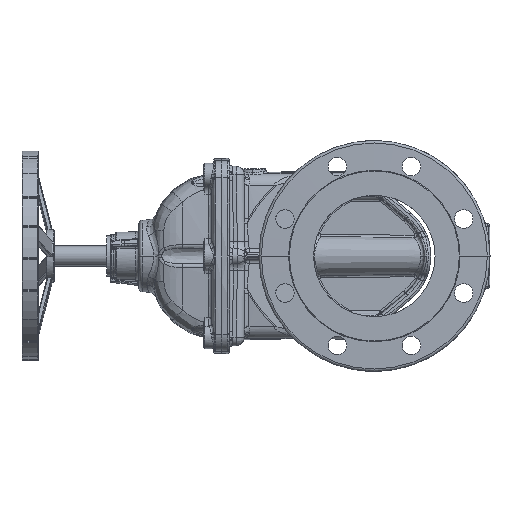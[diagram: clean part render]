
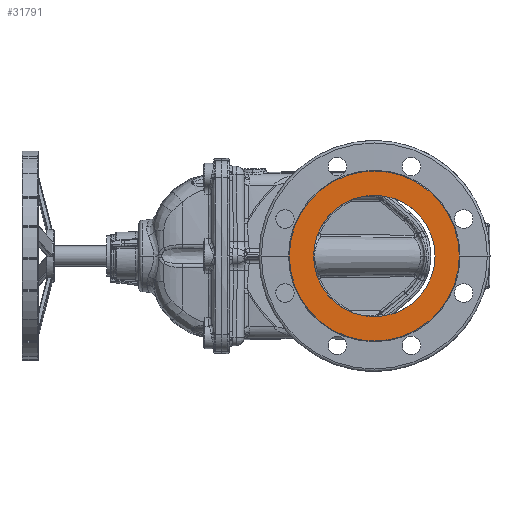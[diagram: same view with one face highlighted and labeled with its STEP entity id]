
A CAD part, left-side view. The second image highlights one B-rep face of the part: STEP entity #31791.
In plain terms, the highlighted planar face has unit normal (-1, 0, 0).
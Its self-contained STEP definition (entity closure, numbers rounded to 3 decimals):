
#1139 = DIRECTION ( 'NONE',  ( -1., 0., 0. ) ) ;
#4307 = VERTEX_POINT ( 'NONE', #75586 ) ;
#5572 = CARTESIAN_POINT ( 'NONE',  ( -105., 0., 0. ) ) ;
#8961 = FACE_BOUND ( 'NONE', #35717, .T. ) ;
#9737 = ORIENTED_EDGE ( 'NONE', *, *, #72267, .T. ) ;
#11351 = DIRECTION ( 'NONE',  ( 1., 0., 0. ) ) ;
#11870 = DIRECTION ( 'NONE',  ( 0., 0., 1. ) ) ;
#14498 = CIRCLE ( 'NONE', #75921, 105.547 ) ;
#25775 = DIRECTION ( 'NONE',  ( 0., 0., 1. ) ) ;
#25816 = CARTESIAN_POINT ( 'NONE',  ( -105., 0., 0. ) ) ;
#27002 = CARTESIAN_POINT ( 'NONE',  ( -105., -75.375, 0. ) ) ;
#29228 = VERTEX_POINT ( 'NONE', #27002 ) ;
#31380 = ORIENTED_EDGE ( 'NONE', *, *, #84639, .F. ) ;
#31791 = ADVANCED_FACE ( 'NONE', ( #80176, #8961 ), #40696, .T. ) ;
#34246 = VERTEX_POINT ( 'NONE', #90348 ) ;
#35717 = EDGE_LOOP ( 'NONE', ( #9737, #38408 ) ) ;
#37448 = VERTEX_POINT ( 'NONE', #60862 ) ;
#38346 = EDGE_CURVE ( 'NONE', #4307, #37448, #14498, .T. ) ;
#38408 = ORIENTED_EDGE ( 'NONE', *, *, #55453, .T. ) ;
#40377 = DIRECTION ( 'NONE',  ( 1., 0., 0. ) ) ;
#40696 = PLANE ( 'NONE',  #80825 ) ;
#41224 = CARTESIAN_POINT ( 'NONE',  ( -105., -206.758, -250. ) ) ;
#42667 = EDGE_LOOP ( 'NONE', ( #31380, #85959 ) ) ;
#42917 = DIRECTION ( 'NONE',  ( 1., 0., 0. ) ) ;
#47361 = AXIS2_PLACEMENT_3D ( 'NONE', #80857, #42917, #25775 ) ;
#55453 = EDGE_CURVE ( 'NONE', #34246, #29228, #64809, .T. ) ;
#56726 = AXIS2_PLACEMENT_3D ( 'NONE', #25816, #40377, #64263 ) ;
#56790 = DIRECTION ( 'NONE',  ( 0., 0., 1. ) ) ;
#60862 = CARTESIAN_POINT ( 'NONE',  ( -105., 105.548, 0. ) ) ;
#64263 = DIRECTION ( 'NONE',  ( 0., 0., 1. ) ) ;
#64581 = DIRECTION ( 'NONE',  ( 0., 0., 1. ) ) ;
#64809 = CIRCLE ( 'NONE', #56726, 75.375 ) ;
#69004 = CIRCLE ( 'NONE', #98867, 75.375 ) ;
#72267 = EDGE_CURVE ( 'NONE', #29228, #34246, #69004, .T. ) ;
#75586 = CARTESIAN_POINT ( 'NONE',  ( -105., -105.547, 0. ) ) ;
#75921 = AXIS2_PLACEMENT_3D ( 'NONE', #80683, #79643, #56790 ) ;
#79643 = DIRECTION ( 'NONE',  ( 1., 0., 0. ) ) ;
#80176 = FACE_OUTER_BOUND ( 'NONE', #42667, .T. ) ;
#80683 = CARTESIAN_POINT ( 'NONE',  ( -105., 0., 0. ) ) ;
#80825 = AXIS2_PLACEMENT_3D ( 'NONE', #41224, #1139, #64581 ) ;
#80857 = CARTESIAN_POINT ( 'NONE',  ( -105., 0., 0. ) ) ;
#84639 = EDGE_CURVE ( 'NONE', #37448, #4307, #100419, .T. ) ;
#85959 = ORIENTED_EDGE ( 'NONE', *, *, #38346, .F. ) ;
#90348 = CARTESIAN_POINT ( 'NONE',  ( -105., 75.375, 0. ) ) ;
#98867 = AXIS2_PLACEMENT_3D ( 'NONE', #5572, #11351, #11870 ) ;
#100419 = CIRCLE ( 'NONE', #47361, 105.547 ) ;
